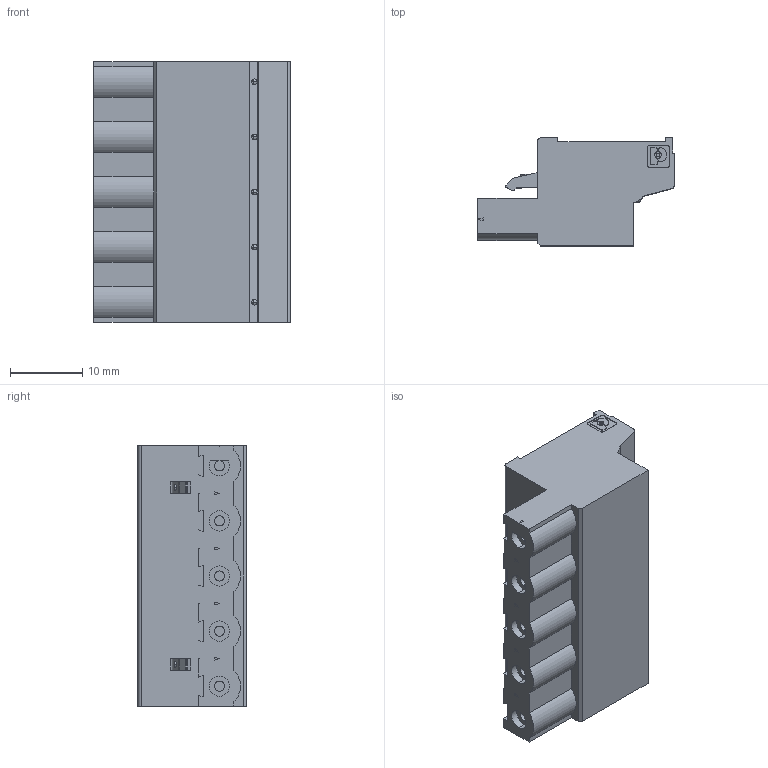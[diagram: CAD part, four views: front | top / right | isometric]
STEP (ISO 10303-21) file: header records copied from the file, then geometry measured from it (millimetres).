
FILE_DESCRIPTION(('SolidDesigner STEP Export'),'1');
FILE_NAME('front-gmstb_2.5-5-st-7.62.stp','2000-07-06T11:37:48',(''),('' ), 'SolidDesigner STEP processor Version: 7.0(Mar 1999)for AP214(CD)(Solid Model)', 'CoCreate SolidDesigner: 07.50 21-Dec-99(C) CoCreate Software GmbH','');
FILE_SCHEMA(('AUTOMOTIVE_DESIGN_CC2 {1 2 10303 214 -1 1 5 1}'));
Length unit declared in the file: millimetre
Products named in the file (2): front-gmstb_2.5-5-st-7.62
Assembly tree (1 placements, depth 2):
  front-gmstb_2.5-5-st-7.62
    front-gmstb_2.5-5-st-7.62
Bounding box: 27.2 x 15 x 36.1 mm (x, y, z)
Volume: 9486.5 mm3; surface area: 4361.6 mm2
Topology: 1 solids, 1 shells, 316 faces, 814 edges, 541 vertices
Faces by surface type: plane 199, cylinder 97, cone 10, sphere 10
Entity records: 12017 total; most frequent: CARTESIAN_POINT 2039, ORIENTED_EDGE 1628, DIRECTION 1418, EDGE_CURVE 814, VERTEX_POINT 541, VECTOR 538, LINE 538, AXIS2_PLACEMENT_3D 440
